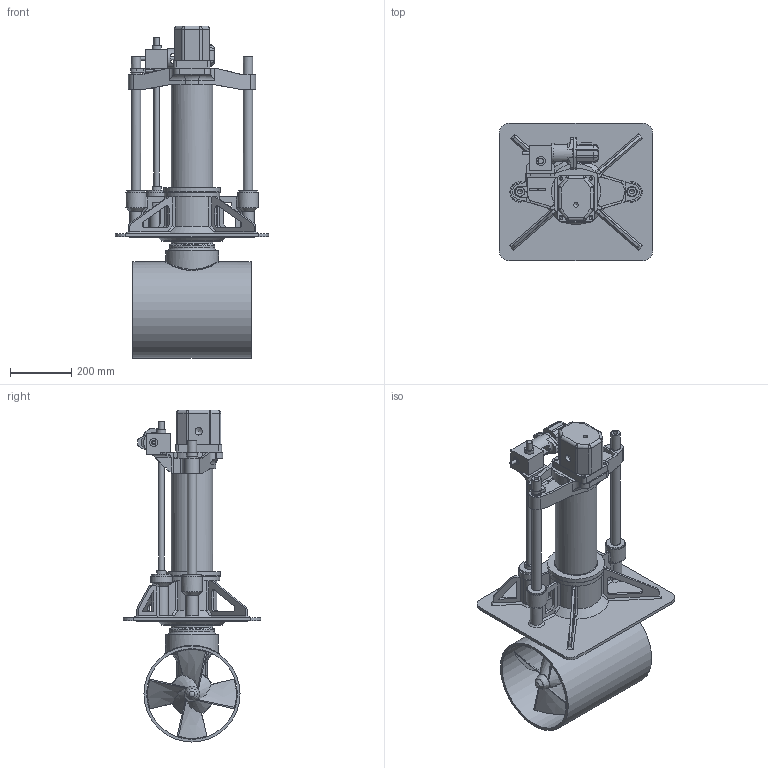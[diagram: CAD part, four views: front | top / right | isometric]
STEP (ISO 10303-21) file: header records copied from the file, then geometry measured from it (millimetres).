
FILE_DESCRIPTION(/* description */ (''),/* implementation_level */ '2;1');
FILE_NAME(/* name */ 'Q:\THRUSTERS\THRUSTER SALES & SUPPORT DOCS\THRUSTER Sales\H-V\H-0300-V\H-0300-V-RETRACTED.stp',/* time_stamp */ '2020-03-03T12:11:52+00:00',/* author */ ('charlotte.richardson'),/* organization */ (''),/* preprocessor_version */ 'ST-DEVELOPER v17',/* originating_system */ 'Autodesk Inventor 2019',/* authorisation */ '');
FILE_SCHEMA (('AUTOMOTIVE_DESIGN { 1 0 10303 214 3 1 1 }'));
Length unit declared in the file: millimetre
Products named in the file (1): H-0300-V_Shrinkwrap_1
Bounding box: 500 x 450 x 1082.85 mm (x, y, z)
Volume: 16662363.1 mm3; surface area: 3051147.4 mm2
Topology: 5 solids, 5 shells, 1475 faces, 4104 edges, 2644 vertices
Faces by surface type: plane 785, cylinder 501, cone 108, bspline 59, torus 12, sphere 10
Full cylindrical faces by diameter (mm): 4 x4, 7 x2, 8 x2, 10 x2, 10.3 x4, 10.8 x2, 11.445 x1, 12.7 x1, 14 x3, 14.95 x3, 15 x2, 18 x1, 18.5 x1, 24.117 x2, 25 x4, 26 x2, 30 x9, 33 x2, 34 x4, 36 x2, 40 x5, 45 x1, 49 x1, 50 x2, 50.8 x1, 55 x8, 57 x1, 60 x2, 65 x2, 66.5 x2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
Entity records: 52535 total; most frequent: CARTESIAN_POINT 12613, ORIENTED_EDGE 8152, DIRECTION 7958, EDGE_CURVE 4076, AXIS2_PLACEMENT_3D 2790, VERTEX_POINT 2644, LINE 2378, VECTOR 2378
